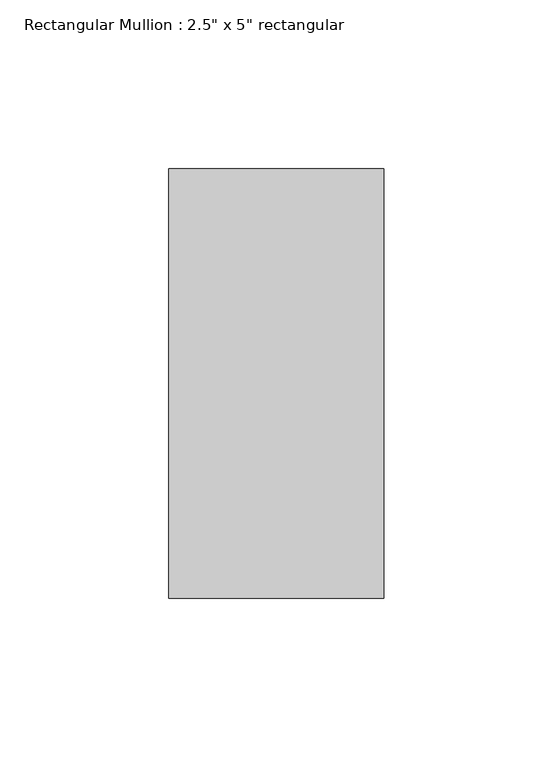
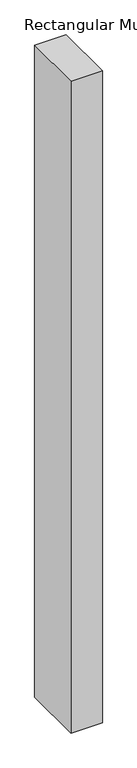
"""IFC4 building model written with IfcOpenShell, lengths in millimetres: member geometry."""

from ifc_helpers import new_model, si_unit, frame, origin, place, context, project, spatial, polyline, outline, extrude, source, transform, mapped, element, save


def member_9db209c3(model_context):
    return source(origin(), model_context, "Body", "SweptSolid", [
        extrude(outline(polyline([(31.75, 63.5), (31.75, -63.5), (-31.75, -63.5), (-31.75, 63.5), (31.75, 63.5)])), frame((0.0, 0.0, -1394.3476312), z_axis=(0.0, 0.0, 1.0), x_axis=(1.0, 0.0, 0.0)), (0.0, 0.0, 1.0), 1394.3476312),
    ])


if __name__ == "__main__":
    model = new_model("IFC4")
    model_context = context("Model", 3, world=origin())
    ifc_project = project(units=[si_unit("LENGTHUNIT", "METRE", prefix="MILLI")], contexts=[model_context])
    site = spatial("IfcSite", under=ifc_project)
    building = spatial("IfcBuilding", under=site)
    placement = place(None, origin())
    member_shape = member_9db209c3(model_context)
    element("IfcMember", 1, ObjectType="Rectangular Mullion : 2.5\" x 5\" rectangular", at=placement, inside=building, context=model_context, shape_type="MappedRepresentation", body=[
        mapped(member_shape, transform((0.0, 0.0, 0.0), x_axis=(1.0, 0.0, 0.0), y_axis=(0.0, 1.0, 0.0), z_axis=(0.0, 0.0, 1.0))),
    ])
    save(model, "model.ifc")
